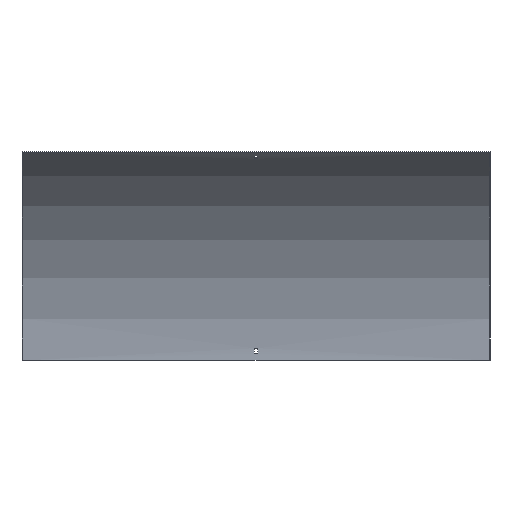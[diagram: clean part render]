
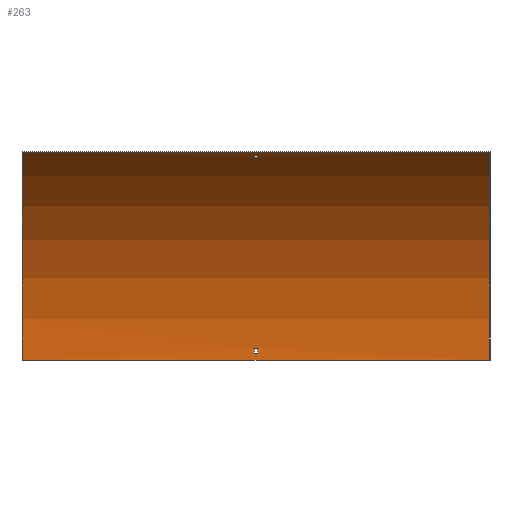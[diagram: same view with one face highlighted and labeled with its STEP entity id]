
A CAD part, front view. The second image highlights one B-rep face of the part: STEP entity #263.
In plain terms, the highlighted cylindrical face has radius 412.5 mm (diameter 825 mm), a partial arc.
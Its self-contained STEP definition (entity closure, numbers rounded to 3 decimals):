
#2 = VERTEX_POINT ( 'NONE', #481 ) ;
#5 = CARTESIAN_POINT ( 'NONE',  ( 400., -207.75, 357.235 ) ) ;
#9 = LINE ( 'NONE', #536, #468 ) ;
#13 = CIRCLE ( 'NONE', #227, 412.5 ) ;
#14 = AXIS2_PLACEMENT_3D ( 'NONE', #83, #132, #184 ) ;
#16 = DIRECTION ( 'NONE',  ( -1., 0., 0. ) ) ;
#19 = EDGE_CURVE ( 'NONE', #166, #512, #527, .T. ) ;
#29 = EDGE_CURVE ( 'NONE', #512, #134, #9, .T. ) ;
#33 = DIRECTION ( 'NONE',  ( -1., 0., 0. ) ) ;
#36 = DIRECTION ( 'NONE',  ( 0., 0., 1. ) ) ;
#38 = DIRECTION ( 'NONE',  ( 0., 0., 1. ) ) ;
#39 = ORIENTED_EDGE ( 'NONE', *, *, #447, .F. ) ;
#40 = CARTESIAN_POINT ( 'NONE',  ( 3.25, -414., 0. ) ) ;
#46 = EDGE_LOOP ( 'NONE', ( #223, #131, #160, #280 ) ) ;
#50 = DIRECTION ( 'NONE',  ( 0., 0., -1. ) ) ;
#62 = EDGE_CURVE ( 'NONE', #600, #305, #436, .T. ) ;
#63 = CIRCLE ( 'NONE', #14, 412.5 ) ;
#70 = AXIS2_PLACEMENT_3D ( 'NONE', #459, #413, #455 ) ;
#72 = EDGE_LOOP ( 'NONE', ( #366, #596, #484, #568 ) ) ;
#80 = FACE_OUTER_BOUND ( 'NONE', #589, .T. ) ;
#83 = CARTESIAN_POINT ( 'NONE',  ( -3.25, -414., 0. ) ) ;
#85 = DIRECTION ( 'NONE',  ( -1., 0., 0. ) ) ;
#88 = DIRECTION ( 'NONE',  ( 1., 0., 0. ) ) ;
#92 = CARTESIAN_POINT ( 'NONE',  ( 400., -1.5, 0. ) ) ;
#98 = ORIENTED_EDGE ( 'NONE', *, *, #530, .T. ) ;
#100 = AXIS2_PLACEMENT_3D ( 'NONE', #146, #296, #50 ) ;
#118 = DIRECTION ( 'NONE',  ( -1., 0., 0. ) ) ;
#127 = CARTESIAN_POINT ( 'NONE',  ( 401.5, -414., 0. ) ) ;
#129 = CARTESIAN_POINT ( 'NONE',  ( -400., -207.75, 357.235 ) ) ;
#131 = ORIENTED_EDGE ( 'NONE', *, *, #351, .T. ) ;
#132 = DIRECTION ( 'NONE',  ( 1., 0., 0. ) ) ;
#134 = VERTEX_POINT ( 'NONE', #148 ) ;
#142 = DIRECTION ( 'NONE',  ( 1., 0., 0. ) ) ;
#146 = CARTESIAN_POINT ( 'NONE',  ( 3.25, -414., 0. ) ) ;
#148 = CARTESIAN_POINT ( 'NONE',  ( -3.25, -2.035, 21. ) ) ;
#154 = CARTESIAN_POINT ( 'NONE',  ( -400., -1.5, 0. ) ) ;
#160 = ORIENTED_EDGE ( 'NONE', *, *, #62, .T. ) ;
#162 = DIRECTION ( 'NONE',  ( 1., 0., 0. ) ) ;
#165 = CARTESIAN_POINT ( 'NONE',  ( -3.25, -189.831, 346.272 ) ) ;
#166 = VERTEX_POINT ( 'NONE', #309 ) ;
#167 = VECTOR ( 'NONE', #142, 1000. ) ;
#169 = VECTOR ( 'NONE', #88, 1000. ) ;
#178 = CIRCLE ( 'NONE', #479, 412.5 ) ;
#184 = DIRECTION ( 'NONE',  ( 0., 1., 0. ) ) ;
#196 = EDGE_CURVE ( 'NONE', #2, #460, #178, .T. ) ;
#203 = EDGE_CURVE ( 'NONE', #134, #480, #13, .T. ) ;
#205 = DIRECTION ( 'NONE',  ( -1., 0., 0. ) ) ;
#216 = DIRECTION ( 'NONE',  ( 0., 0., 1. ) ) ;
#223 = ORIENTED_EDGE ( 'NONE', *, *, #356, .T. ) ;
#227 = AXIS2_PLACEMENT_3D ( 'NONE', #584, #118, #216 ) ;
#235 = VERTEX_POINT ( 'NONE', #165 ) ;
#236 = CARTESIAN_POINT ( 'NONE',  ( 3.25, -2.035, 21. ) ) ;
#242 = CARTESIAN_POINT ( 'NONE',  ( 3.25, -189.831, 346.272 ) ) ;
#257 = CARTESIAN_POINT ( 'NONE',  ( 400., -414., 0. ) ) ;
#263 = ADVANCED_FACE ( 'NONE', ( #412, #80, #605 ), #466, .F. ) ;
#272 = ORIENTED_EDGE ( 'NONE', *, *, #196, .T. ) ;
#280 = ORIENTED_EDGE ( 'NONE', *, *, #312, .T. ) ;
#291 = VECTOR ( 'NONE', #205, 1000. ) ;
#296 = DIRECTION ( 'NONE',  ( 1., 0., 0. ) ) ;
#305 = VERTEX_POINT ( 'NONE', #519 ) ;
#306 = EDGE_CURVE ( 'NONE', #418, #349, #549, .T. ) ;
#307 = AXIS2_PLACEMENT_3D ( 'NONE', #127, #595, #38 ) ;
#309 = CARTESIAN_POINT ( 'NONE',  ( 3.25, -1.675, 12. ) ) ;
#312 = EDGE_CURVE ( 'NONE', #305, #400, #437, .T. ) ;
#321 = LINE ( 'NONE', #513, #387 ) ;
#323 = CARTESIAN_POINT ( 'NONE',  ( 401.5, -1.675, 12. ) ) ;
#340 = CARTESIAN_POINT ( 'NONE',  ( 401.5, -197.445, 351.084 ) ) ;
#349 = VERTEX_POINT ( 'NONE', #129 ) ;
#351 = EDGE_CURVE ( 'NONE', #235, #600, #63, .T. ) ;
#355 = DIRECTION ( 'NONE',  ( 0., 0., -1. ) ) ;
#356 = EDGE_CURVE ( 'NONE', #400, #235, #321, .T. ) ;
#366 = ORIENTED_EDGE ( 'NONE', *, *, #203, .F. ) ;
#369 = LINE ( 'NONE', #323, #169 ) ;
#373 = EDGE_CURVE ( 'NONE', #480, #166, #369, .T. ) ;
#376 = AXIS2_PLACEMENT_3D ( 'NONE', #40, #33, #36 ) ;
#382 = DIRECTION ( 'NONE',  ( -1., 0., 0. ) ) ;
#387 = VECTOR ( 'NONE', #85, 1000. ) ;
#389 = CARTESIAN_POINT ( 'NONE',  ( 400., -207.75, 357.235 ) ) ;
#398 = CARTESIAN_POINT ( 'NONE',  ( -3.25, -197.445, 351.084 ) ) ;
#400 = VERTEX_POINT ( 'NONE', #242 ) ;
#412 = FACE_BOUND ( 'NONE', #72, .T. ) ;
#413 = DIRECTION ( 'NONE',  ( 1., 0., 0. ) ) ;
#418 = VERTEX_POINT ( 'NONE', #154 ) ;
#422 = CARTESIAN_POINT ( 'NONE',  ( -3.25, -1.675, 12. ) ) ;
#434 = LINE ( 'NONE', #92, #469 ) ;
#436 = LINE ( 'NONE', #340, #167 ) ;
#437 = CIRCLE ( 'NONE', #376, 412.5 ) ;
#447 = EDGE_CURVE ( 'NONE', #2, #418, #434, .T. ) ;
#455 = DIRECTION ( 'NONE',  ( 0., 0., -1. ) ) ;
#459 = CARTESIAN_POINT ( 'NONE',  ( -400., -414., 0. ) ) ;
#460 = VERTEX_POINT ( 'NONE', #389 ) ;
#466 = CYLINDRICAL_SURFACE ( 'NONE', #307, 412.5 ) ;
#468 = VECTOR ( 'NONE', #16, 1000. ) ;
#469 = VECTOR ( 'NONE', #382, 1000. ) ;
#479 = AXIS2_PLACEMENT_3D ( 'NONE', #257, #162, #355 ) ;
#480 = VERTEX_POINT ( 'NONE', #422 ) ;
#481 = CARTESIAN_POINT ( 'NONE',  ( 400., -1.5, 0. ) ) ;
#484 = ORIENTED_EDGE ( 'NONE', *, *, #19, .F. ) ;
#485 = LINE ( 'NONE', #5, #291 ) ;
#512 = VERTEX_POINT ( 'NONE', #236 ) ;
#513 = CARTESIAN_POINT ( 'NONE',  ( 401.5, -189.831, 346.272 ) ) ;
#519 = CARTESIAN_POINT ( 'NONE',  ( 3.25, -197.445, 351.084 ) ) ;
#527 = CIRCLE ( 'NONE', #100, 412.5 ) ;
#530 = EDGE_CURVE ( 'NONE', #460, #349, #485, .T. ) ;
#536 = CARTESIAN_POINT ( 'NONE',  ( 401.5, -2.035, 21. ) ) ;
#549 = CIRCLE ( 'NONE', #70, 412.5 ) ;
#568 = ORIENTED_EDGE ( 'NONE', *, *, #373, .F. ) ;
#582 = ORIENTED_EDGE ( 'NONE', *, *, #306, .F. ) ;
#584 = CARTESIAN_POINT ( 'NONE',  ( -3.25, -414., 0. ) ) ;
#589 = EDGE_LOOP ( 'NONE', ( #582, #39, #272, #98 ) ) ;
#595 = DIRECTION ( 'NONE',  ( -1., 0., 0. ) ) ;
#596 = ORIENTED_EDGE ( 'NONE', *, *, #29, .F. ) ;
#600 = VERTEX_POINT ( 'NONE', #398 ) ;
#605 = FACE_BOUND ( 'NONE', #46, .T. ) ;
